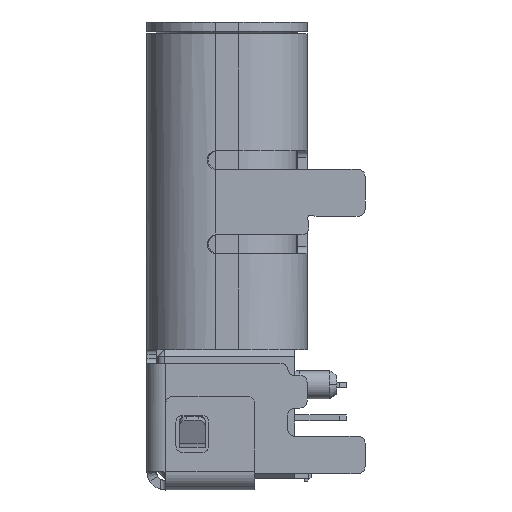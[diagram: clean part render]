
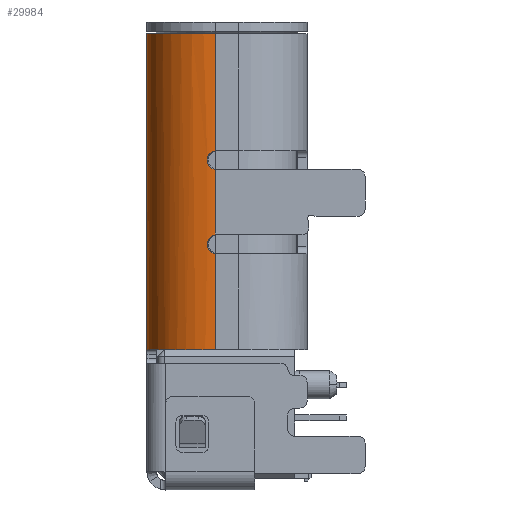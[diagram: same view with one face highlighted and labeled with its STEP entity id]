
A CAD part, left-side view. The second image highlights one B-rep face of the part: STEP entity #29984.
In plain terms, the highlighted cylindrical face has radius 1.46 mm (diameter 2.92 mm), a partial arc.
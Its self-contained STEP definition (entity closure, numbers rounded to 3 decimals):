
#6669=CARTESIAN_POINT('',(-3.14,0.54,2.25));
#6670=DIRECTION('',(0.,0.,-1.));
#6671=DIRECTION('',(-1.,0.,0.));
#6672=AXIS2_PLACEMENT_3D('',#6669,#6670,#6671);
#6787=CARTESIAN_POINT('',(-3.14,0.54,-4.5));
#6788=DIRECTION('',(0.,0.,1.));
#6789=DIRECTION('',(-0.068,0.998,0.));
#6790=AXIS2_PLACEMENT_3D('',#6787,#6788,#6789);
#6797=CARTESIAN_POINT('',(-3.24,1.997,-4.5));
#6798=CARTESIAN_POINT('',(-3.229,1.997,
-4.5));
#6799=CARTESIAN_POINT('',(-3.209,1.998,
-4.503));
#6800=CARTESIAN_POINT('',(-3.18,2.,
-4.518));
#6801=CARTESIAN_POINT('',(-3.158,2.,
-4.54));
#6802=CARTESIAN_POINT('',(-3.143,2.,
-4.569));
#6803=CARTESIAN_POINT('',(-3.14,2.,
-4.589));
#6804=CARTESIAN_POINT('',(-3.14,2.,
-4.6));
#6806=DIRECTION('',(0.,0.,1.));
#6807=VECTOR('',#6806,6.85);
#6808=CARTESIAN_POINT('',(-3.14,2.,
-4.6));
#6809=LINE('',#6808,#6807);
#6810=DIRECTION('',(0.,0.,-1.));
#6811=VECTOR('',#6810,2.502);
#6812=CARTESIAN_POINT('',(-4.6,0.54,2.25));
#6813=LINE('',#6812,#6811);
#6814=CARTESIAN_POINT('',(-4.6,0.54,-0.252));
#6815=CARTESIAN_POINT('',(-4.6,0.559,
-0.254));
#6816=CARTESIAN_POINT('',(-4.599,0.596,
-0.264));
#6817=CARTESIAN_POINT('',(-4.596,0.646,
-0.296));
#6818=CARTESIAN_POINT('',(-4.593,0.684,
-0.339));
#6819=CARTESIAN_POINT('',(-4.59,0.709,
-0.394));
#6820=CARTESIAN_POINT('',(-4.59,0.714,
-0.431));
#6821=CARTESIAN_POINT('',(-4.59,0.714,
-0.45));
#6823=CARTESIAN_POINT('',(-4.59,0.714,
-0.45));
#6824=CARTESIAN_POINT('',(-4.59,0.714,
-0.47));
#6825=CARTESIAN_POINT('',(-4.59,0.708,
-0.507));
#6826=CARTESIAN_POINT('',(-4.593,0.684,
-0.561));
#6827=CARTESIAN_POINT('',(-4.596,0.646,
-0.604));
#6828=CARTESIAN_POINT('',(-4.599,0.596,
-0.635));
#6829=CARTESIAN_POINT('',(-4.6,0.56,
-0.646));
#6830=CARTESIAN_POINT('',(-4.6,0.54,-0.648));
#6832=DIRECTION('',(0.,0.,-1.));
#6833=VECTOR('',#6832,1.403);
#6834=CARTESIAN_POINT('',(-4.6,0.54,-0.648));
#6835=LINE('',#6834,#6833);
#6836=CARTESIAN_POINT('',(-4.6,0.54,-2.052));
#6837=CARTESIAN_POINT('',(-4.6,0.56,
-2.054));
#6838=CARTESIAN_POINT('',(-4.599,0.596,
-2.065));
#6839=CARTESIAN_POINT('',(-4.596,0.646,
-2.096));
#6840=CARTESIAN_POINT('',(-4.593,0.684,
-2.14));
#6841=CARTESIAN_POINT('',(-4.59,0.708,
-2.193));
#6842=CARTESIAN_POINT('',(-4.589,0.717,
-2.25));
#6843=CARTESIAN_POINT('',(-4.59,0.708,
-2.307));
#6844=CARTESIAN_POINT('',(-4.593,0.684,
-2.36));
#6845=CARTESIAN_POINT('',(-4.596,0.646,
-2.404));
#6846=CARTESIAN_POINT('',(-4.599,0.596,
-2.435));
#6847=CARTESIAN_POINT('',(-4.6,0.56,
-2.446));
#6848=CARTESIAN_POINT('',(-4.6,0.54,
-2.448));
#6850=DIRECTION('',(0.,0.,-1.));
#6851=VECTOR('',#6850,2.052);
#6852=CARTESIAN_POINT('',(-4.6,0.54,
-2.448));
#6853=LINE('',#6852,#6851);
#6881=CARTESIAN_POINT('',(-3.14,0.54,-4.5));
#6882=DIRECTION('',(0.,0.,1.));
#6883=DIRECTION('',(-0.74,0.673,0.));
#6884=AXIS2_PLACEMENT_3D('',#6881,#6882,#6883);
#9260=CARTESIAN_POINT('',(-3.14,0.54,-4.5));
#9261=DIRECTION('',(0.,0.,1.));
#9262=DIRECTION('',(-0.673,0.74,0.));
#9263=AXIS2_PLACEMENT_3D('',#9260,#9261,#9262);
#17271=CARTESIAN_POINT('',(-3.14,2.,
-4.6));
#17272=VERTEX_POINT('',#17271);
#17275=CARTESIAN_POINT('',(-3.24,1.997,-4.5));
#17277=VERTEX_POINT('',#17275);
#17279=CARTESIAN_POINT('',(-4.122,1.62,-4.5));
#17280=VERTEX_POINT('',#17279);
#17283=CARTESIAN_POINT('',(-4.22,1.522,-4.5));
#17284=CARTESIAN_POINT('',(-4.6,0.54,-4.5));
#17285=VERTEX_POINT('',#17283);
#17286=VERTEX_POINT('',#17284);
#17287=CARTESIAN_POINT('',(-3.14,2.,2.25));
#17288=VERTEX_POINT('',#17287);
#17289=CARTESIAN_POINT('',(-4.6,0.54,2.25));
#17290=VERTEX_POINT('',#17289);
#17291=CARTESIAN_POINT('',(-4.6,0.54,-0.252));
#17292=VERTEX_POINT('',#17291);
#17293=VERTEX_POINT('',#6821);
#17294=VERTEX_POINT('',#6830);
#17295=CARTESIAN_POINT('',(-4.6,0.54,-2.052));
#17296=VERTEX_POINT('',#17295);
#17297=VERTEX_POINT('',#6848);
#29955=CARTESIAN_POINT('',(-3.14,0.54,-4.737));
#29956=DIRECTION('',(0.,0.,1.));
#29957=DIRECTION('',(0.,1.,0.));
#29958=AXIS2_PLACEMENT_3D('',#29955,#29956,#29957);
#29959=CYLINDRICAL_SURFACE('',#29958,1.46);
#29961=ORIENTED_EDGE('',*,*,#29960,.F.);
#29963=ORIENTED_EDGE('',*,*,#29962,.F.);
#29964=ORIENTED_EDGE('',*,*,#29945,.F.);
#29966=ORIENTED_EDGE('',*,*,#29965,.T.);
#29968=ORIENTED_EDGE('',*,*,#29967,.T.);
#29969=ORIENTED_EDGE('',*,*,#29869,.F.);
#29971=ORIENTED_EDGE('',*,*,#29970,.T.);
#29973=ORIENTED_EDGE('',*,*,#29972,.T.);
#29975=ORIENTED_EDGE('',*,*,#29974,.T.);
#29977=ORIENTED_EDGE('',*,*,#29976,.T.);
#29979=ORIENTED_EDGE('',*,*,#29978,.T.);
#29981=ORIENTED_EDGE('',*,*,#29980,.T.);
#29982=EDGE_LOOP('',(#29961,#29963,#29964,#29966,#29968,#29969,#29971,#29973,
#29975,#29977,#29979,#29981));
#29983=FACE_OUTER_BOUND('',#29982,.F.);
#6673=CIRCLE('',#6672,1.46);
#6791=CIRCLE('',#6790,1.46);
#6805=B_SPLINE_CURVE_WITH_KNOTS('',3,(#6797,#6798,#6799,#6800,#6801,#6802,#6803,
#6804),.UNSPECIFIED.,.F.,.F.,(4,1,1,1,1,4),(0.,0.2,0.4,0.6,0.8,1.),
.UNSPECIFIED.);
#6822=B_SPLINE_CURVE_WITH_KNOTS('',3,(#6814,#6815,#6816,#6817,#6818,#6819,#6820,
#6821),.UNSPECIFIED.,.F.,.F.,(4,1,1,1,1,4),(0.,0.2,0.4,0.6,0.8,1.),
.UNSPECIFIED.);
#6831=B_SPLINE_CURVE_WITH_KNOTS('',3,(#6823,#6824,#6825,#6826,#6827,#6828,#6829,
#6830),.UNSPECIFIED.,.F.,.F.,(4,1,1,1,1,4),(0.,0.2,0.4,0.6,0.8,1.),
.UNSPECIFIED.);
#6849=B_SPLINE_CURVE_WITH_KNOTS('',3,(#6836,#6837,#6838,#6839,#6840,#6841,#6842,
#6843,#6844,#6845,#6846,#6847,#6848),.UNSPECIFIED.,.F.,.F.,(4,1,1,1,1,1,1,1,1,1,
4),(0.,0.1,0.2,0.3,0.4,0.5,0.6,0.7,0.8,0.9,1.),
.UNSPECIFIED.);
#6885=CIRCLE('',#6884,1.46);
#9264=CIRCLE('',#9263,1.46);
#29869=EDGE_CURVE('',#17290,#17288,#6673,.T.);
#29945=EDGE_CURVE('',#17277,#17280,#6791,.T.);
#29960=EDGE_CURVE('',#17285,#17286,#6885,.T.);
#29962=EDGE_CURVE('',#17280,#17285,#9264,.T.);
#29965=EDGE_CURVE('',#17277,#17272,#6805,.T.);
#29967=EDGE_CURVE('',#17272,#17288,#6809,.T.);
#29970=EDGE_CURVE('',#17290,#17292,#6813,.T.);
#29972=EDGE_CURVE('',#17292,#17293,#6822,.T.);
#29974=EDGE_CURVE('',#17293,#17294,#6831,.T.);
#29976=EDGE_CURVE('',#17294,#17296,#6835,.T.);
#29978=EDGE_CURVE('',#17296,#17297,#6849,.T.);
#29980=EDGE_CURVE('',#17297,#17286,#6853,.T.);
#29984=ADVANCED_FACE('',(#29983),#29959,.T.);
